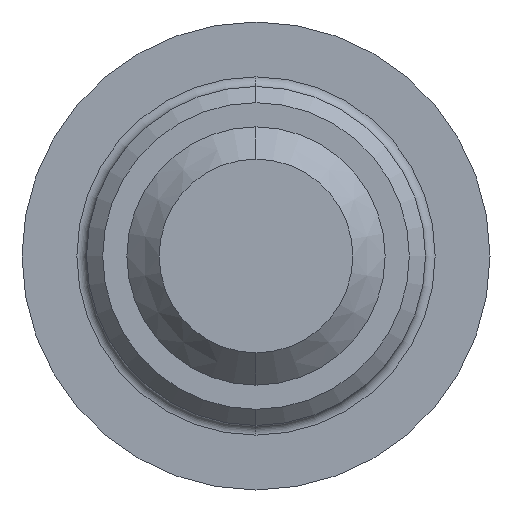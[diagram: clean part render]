
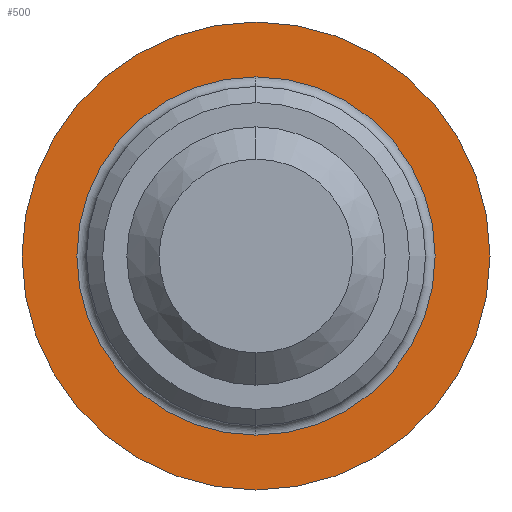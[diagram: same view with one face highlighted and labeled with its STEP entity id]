
A CAD part, left-side view. The second image highlights one B-rep face of the part: STEP entity #500.
In plain terms, the highlighted planar face has unit normal (-1, 0, 0).
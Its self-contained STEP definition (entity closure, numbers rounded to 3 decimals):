
#5 = CARTESIAN_POINT ( 'NONE',  ( -39., 0., 0. ) ) ;
#38 = AXIS2_PLACEMENT_3D ( 'NONE', #458, #814, #867 ) ;
#45 = CARTESIAN_POINT ( 'NONE',  ( -39., 5.25, 0. ) ) ;
#46 = DIRECTION ( 'NONE',  ( 0., 0., -1. ) ) ;
#61 = ORIENTED_EDGE ( 'NONE', *, *, #298, .T. ) ;
#90 = CIRCLE ( 'NONE', #285, 5.55 ) ;
#138 = CIRCLE ( 'NONE', #943, 7.25 ) ;
#156 = VERTEX_POINT ( 'NONE', #766 ) ;
#168 = DIRECTION ( 'NONE',  ( 0., 0., 1. ) ) ;
#209 = ORIENTED_EDGE ( 'NONE', *, *, #800, .T. ) ;
#212 = CARTESIAN_POINT ( 'NONE',  ( -39., 0., -5.55 ) ) ;
#214 = ORIENTED_EDGE ( 'NONE', *, *, #576, .T. ) ;
#285 = AXIS2_PLACEMENT_3D ( 'NONE', #362, #787, #46 ) ;
#298 = EDGE_CURVE ( 'NONE', #850, #156, #572, .T. ) ;
#343 = EDGE_CURVE ( 'NONE', #965, #377, #837, .T. ) ;
#362 = CARTESIAN_POINT ( 'NONE',  ( -39., 0., 0. ) ) ;
#369 = PLANE ( 'NONE',  #928 ) ;
#377 = VERTEX_POINT ( 'NONE', #613 ) ;
#378 = FACE_OUTER_BOUND ( 'NONE', #957, .T. ) ;
#395 = DIRECTION ( 'NONE',  ( -1., 0., 0. ) ) ;
#436 = AXIS2_PLACEMENT_3D ( 'NONE', #917, #395, #546 ) ;
#458 = CARTESIAN_POINT ( 'NONE',  ( -39., 0., 0. ) ) ;
#473 = DIRECTION ( 'NONE',  ( -1., 0., 0. ) ) ;
#500 = ADVANCED_FACE ( 'NONE', ( #587, #378 ), #369, .F. ) ;
#546 = DIRECTION ( 'NONE',  ( 0., 0., 1. ) ) ;
#572 = CIRCLE ( 'NONE', #38, 5.55 ) ;
#576 = EDGE_CURVE ( 'NONE', #377, #965, #138, .T. ) ;
#587 = FACE_BOUND ( 'NONE', #591, .T. ) ;
#591 = EDGE_LOOP ( 'NONE', ( #61, #209 ) ) ;
#613 = CARTESIAN_POINT ( 'NONE',  ( -39., 0., -7.25 ) ) ;
#649 = DIRECTION ( 'NONE',  ( 0., 0., -1. ) ) ;
#659 = DIRECTION ( 'NONE',  ( 1., 0., 0. ) ) ;
#761 = CARTESIAN_POINT ( 'NONE',  ( -39., 0., 7.25 ) ) ;
#766 = CARTESIAN_POINT ( 'NONE',  ( -39., 0., 5.55 ) ) ;
#787 = DIRECTION ( 'NONE',  ( 1., 0., 0. ) ) ;
#800 = EDGE_CURVE ( 'NONE', #156, #850, #90, .T. ) ;
#809 = ORIENTED_EDGE ( 'NONE', *, *, #343, .T. ) ;
#814 = DIRECTION ( 'NONE',  ( 1., 0., 0. ) ) ;
#837 = CIRCLE ( 'NONE', #436, 7.25 ) ;
#850 = VERTEX_POINT ( 'NONE', #212 ) ;
#867 = DIRECTION ( 'NONE',  ( 0., 0., -1. ) ) ;
#917 = CARTESIAN_POINT ( 'NONE',  ( -39., 0., 0. ) ) ;
#928 = AXIS2_PLACEMENT_3D ( 'NONE', #45, #659, #649 ) ;
#943 = AXIS2_PLACEMENT_3D ( 'NONE', #5, #473, #168 ) ;
#957 = EDGE_LOOP ( 'NONE', ( #809, #214 ) ) ;
#965 = VERTEX_POINT ( 'NONE', #761 ) ;
